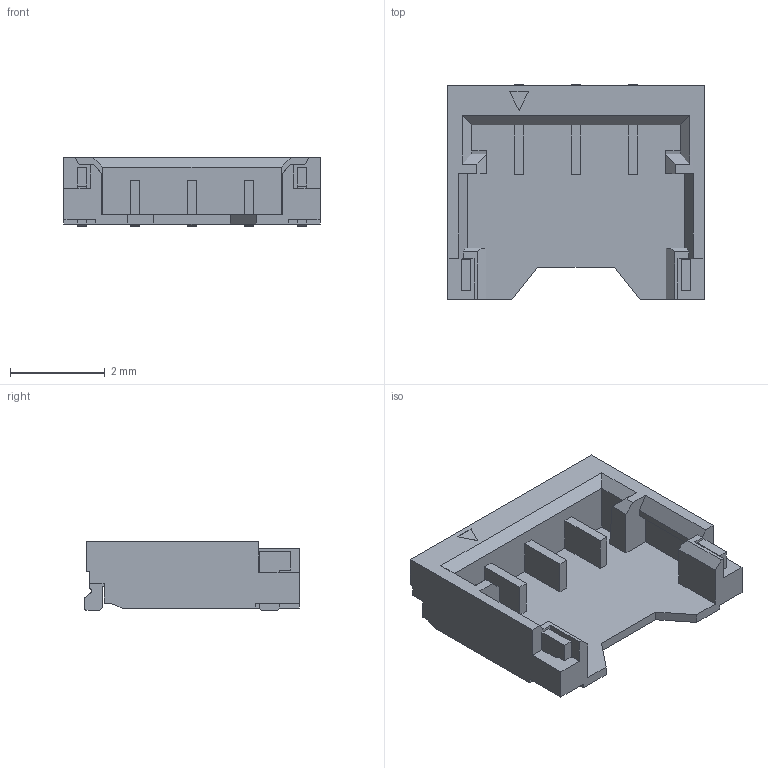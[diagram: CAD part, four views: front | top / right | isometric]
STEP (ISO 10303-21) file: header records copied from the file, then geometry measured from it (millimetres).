
FILE_DESCRIPTION(('STEP AP203'),'1');
FILE_NAME('0781710003.stp','2024-12-11T10:19:48',('TraceParts'),('TraceParts S.A.'),'Spatial InterOp 3D',' ',' ');
FILE_SCHEMA(('CONFIG_CONTROL_DESIGN'));
Length unit declared in the file: millimetre
Products named in the file (1): 1
Bounding box: 5.4 x 4.53 x 1.45 mm (x, y, z)
Volume: 13 mm3; surface area: 92.2 mm2
Topology: 1 solids, 1 shells, 152 faces, 435 edges, 288 vertices
Faces by surface type: plane 137, cylinder 15
Entity records: 4933 total; most frequent: CARTESIAN_POINT 878, ORIENTED_EDGE 870, DIRECTION 771, EDGE_CURVE 435, LINE 405, VECTOR 405, VERTEX_POINT 290, AXIS2_PLACEMENT_3D 183
